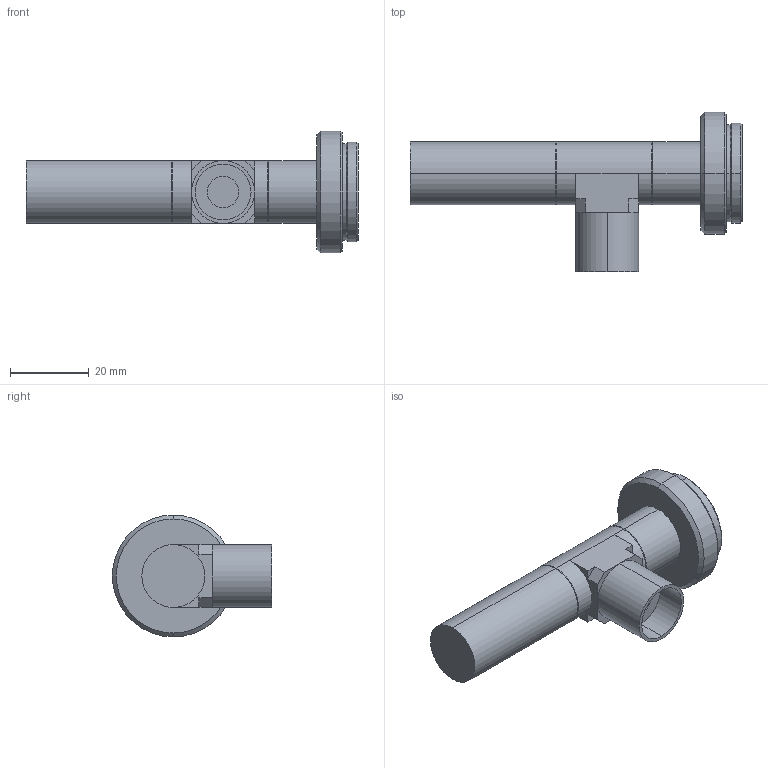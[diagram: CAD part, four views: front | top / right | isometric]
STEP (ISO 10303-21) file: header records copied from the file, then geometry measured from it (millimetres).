
FILE_DESCRIPTION (( 'STEP AP203' ), '1' );
FILE_NAME ('VS-TC1.5N-110CO.STEP', '2015-06-23T08:00:47', ( 'miura_vst' ), ( '' ), 'SwSTEP 2.0', 'SolidWorks 2015', '' );
FILE_SCHEMA (( 'CONFIG_CONTROL_DESIGN' ));
Length unit declared in the file: millimetre
Products named in the file (1): VS-TC1.5N-110CO
Bounding box: 84.4 x 40.5 x 31 mm (x, y, z)
Volume: 24045.6 mm3; surface area: 7669.3 mm2
Topology: 1 solids, 1 shells, 58 faces, 124 edges, 72 vertices
Faces by surface type: plane 23, cylinder 19, cone 16
Entity records: 1619 total; most frequent: DIRECTION 292, CARTESIAN_POINT 255, ORIENTED_EDGE 248, EDGE_CURVE 124, AXIS2_PLACEMENT_3D 109, VECTOR 74, LINE 74, VERTEX_POINT 72
